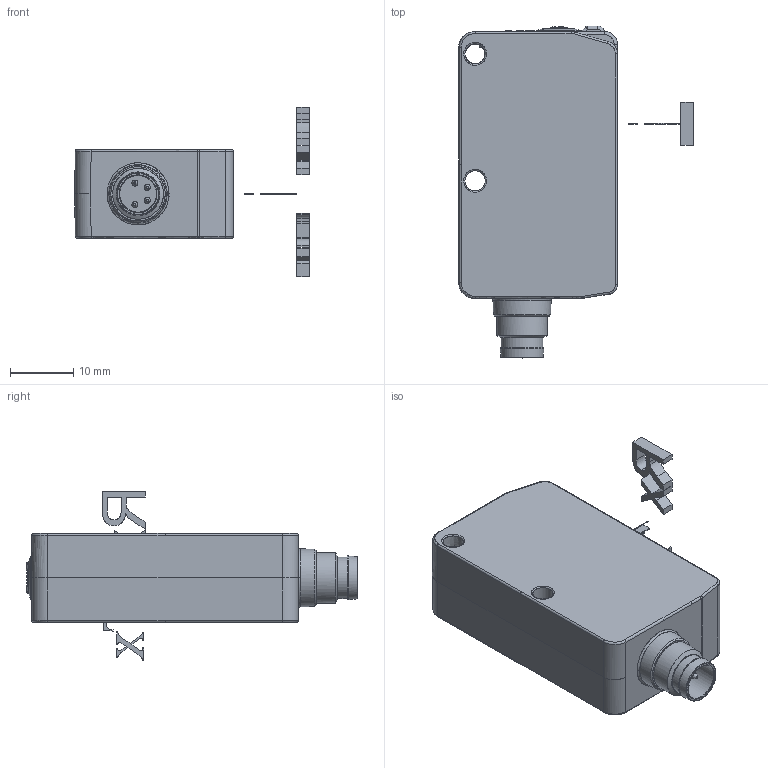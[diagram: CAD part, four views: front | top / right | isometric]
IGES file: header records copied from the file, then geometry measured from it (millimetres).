
Start section: JAMA-IS VERSION  1.0
Global section: file name: D:\CS\IDF\TESTPCB\DSD-0144.igs; native system: NX V12.0; preprocessor: SIEMENS PLM Software NX 12.0; date: 200922.112057; units: millimetre
Bounding box: 37 x 52.3 x 26.68 mm (x, y, z)
Surface area: 5383.6 mm2 (no closed solid volume)
Topology: 0 solids, 0 shells, 515 faces, 3155 edges, 3089 vertices
Faces by surface type: bspline 515
